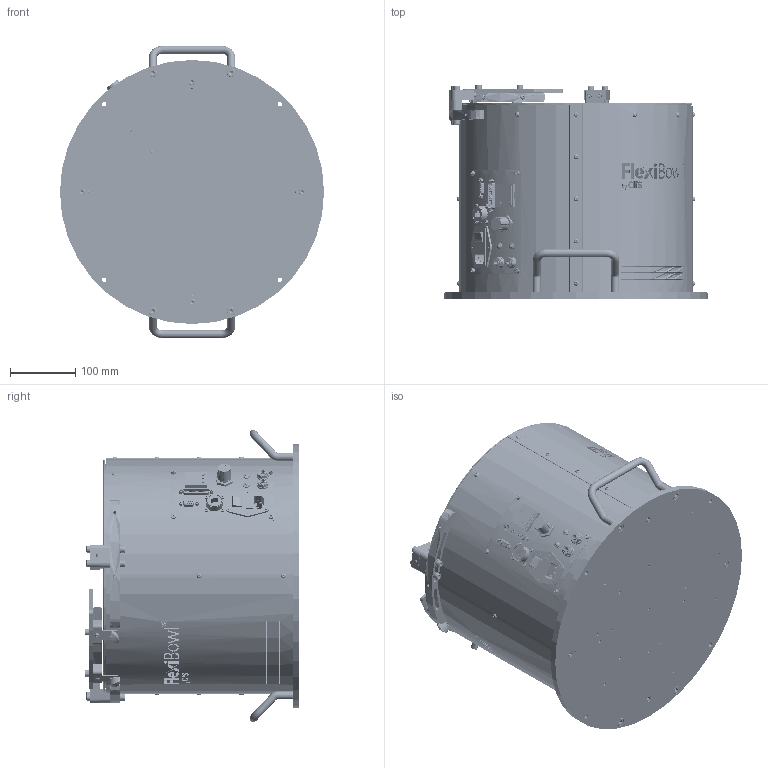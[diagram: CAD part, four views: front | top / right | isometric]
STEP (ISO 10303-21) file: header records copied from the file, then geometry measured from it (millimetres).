
FILE_DESCRIPTION (( 'STEP AP214' ), '1' );
FILE_NAME ('FB350C.STEP', '2021-09-09T09:01:11', ( '' ), ( '' ), 'SwSTEP 2.0', 'SolidWorks 2020', '' );
FILE_SCHEMA (( 'AUTOMOTIVE_DESIGN' ));
Length unit declared in the file: millimetre
Products named in the file (68): PD001117; PD001083; CM000064; PD001584; CM000157; CM000025; PD000709; CM000686; PD001736; CM000008_002; CM000008; CM000026; CE000327; PD001362; PD001737; Copia di CE000327^CE000327; PD001440; PD001081; CM000051; CM000043; CE000005; PD001080; Copia di Connettore te 2 poli - Copia^CE000302; Copia di connector_a-ds_25_pp-f^CE000302; CM000478; CM000686_001; PD001363; Copia di 39-01-2025^CE000302; FB350C; PD001075; CM000027; CM000008_004; PD001082; Copia di 15 poli femmina^CE000302; CE000326; CM000669; PD001153; CM000170; CM000015_002; CM000169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
Assembly tree (172 placements, depth 3):
  FB350C
    CM000032  x4
    CM000170  x4
    CM000169  x6
    CM000031  x6
    CM000050  x2
    CM000478  x26
    CM000051  x8
    CM000463  x4
    CM000166  x8
    CM000024  x10
    CM000027  x2
    CM000064  x4
    CM000157  x4
    CM000026  x10
    CM000025  x4
    CM000006  x4
    CM000043  x2
    PD001074
    PD001440  x4
    PD001075
    PD001080
    PD001083
    PD001737
    PD001738
    PD001736  x2
    PD000709
    PD001081
    PD001082
    CM000001  x2
    PD001113
    PD001584  x2
    PD001153
    PD001117  x2
    CM000669  x2
    PD001432  x2
    PD001362  x2
    PD001363  x2
    PD001360_FB350
    CE000007
    CM000015  x2
      CM000015_001
      CM000015_002
    CE000013  x2
    CE000005
    CM000008
      CM000008_001
      CM000008_003  x2
      CM000008_002
      CM000008_004
      CM000008_005
    CE000302
      Copia di connector_a-ds_25_pp-f^CE000302
      Copia di 15 poli femmina^CE000302
      Copia di connector_amet-15rs^CE000302
      Copia di Connettore te 2 poli - Copia^CE000302
      Copia di 39-01-2025^CE000302
    CE000316
    CM000686
      CM000686_001
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Bounding box: 404 x 328 x 446.76 mm (x, y, z)
Volume: 3665129 mm3; surface area: 1876779.5 mm2
Topology: 180 solids, 180 shells, 8661 faces, 22228 edges, 14267 vertices
Faces by surface type: plane 4494, cylinder 2138, cone 1013, bspline 561, torus 415, sphere 40
Entity records: 266799 total; most frequent: CARTESIAN_POINT 75840, ORIENTED_EDGE 33236, DIRECTION 29886, EDGE_CURVE 16618, VERTEX_POINT 11078, AXIS2_PLACEMENT_3D 9977, VECTOR 9932, LINE 9932
